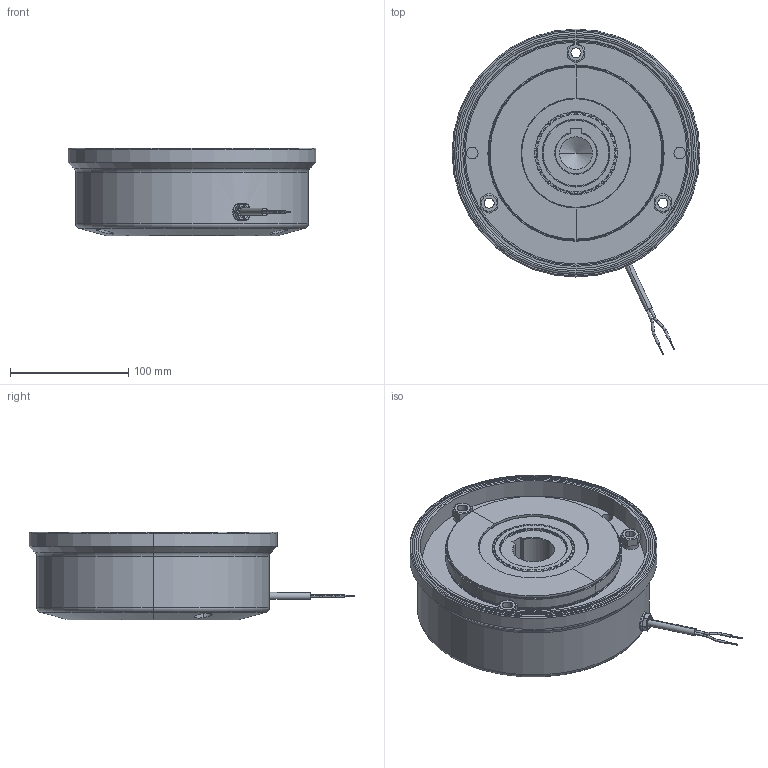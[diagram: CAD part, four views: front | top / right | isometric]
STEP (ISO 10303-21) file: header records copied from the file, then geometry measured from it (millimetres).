
FILE_DESCRIPTION (( 'STEP AP214' ), '1' );
FILE_NAME ('dr_bk_0728_mu.STEP', '2021-11-08T14:09:11', ( '' ), ( '' ), 'SwSTEP 2.0', 'SolidWorks 2019', '' );
FILE_SCHEMA (( 'AUTOMOTIVE_DESIGN' ));
Length unit declared in the file: millimetre
Products named in the file (7): 10068445_000; 10068645_000_Eingebaut Abstand 3,5mm; 10068643_000; 10068644_000; dr_bk_0728_mu; 10068446_000; 10068447_000_07.08.540-G352 Nabe
Assembly tree (8 placements, depth 2):
  dr_bk_0728_mu
    10068643_000
    10068445_000
    10068446_000  x3
    10068644_000
    10068447_000_07.08.540-G352 Nabe
    10068645_000_Eingebaut Abstand 3,5mm
Bounding box: 210 x 275.9 x 74.2 mm (x, y, z)
Volume: 1903609.7 mm3; surface area: 324258.7 mm2
Topology: 12 solids, 12 shells, 839 faces, 2109 edges, 1315 vertices
Faces by surface type: cylinder 299, plane 218, cone 163, torus 153, sphere 6
Entity records: 32386 total; most frequent: CARTESIAN_POINT 6790, DIRECTION 4062, ORIENTED_EDGE 4050, EDGE_CURVE 2025, AXIS2_PLACEMENT_3D 1720, VERTEX_POINT 1267, CIRCLE 904, EDGE_LOOP 864
